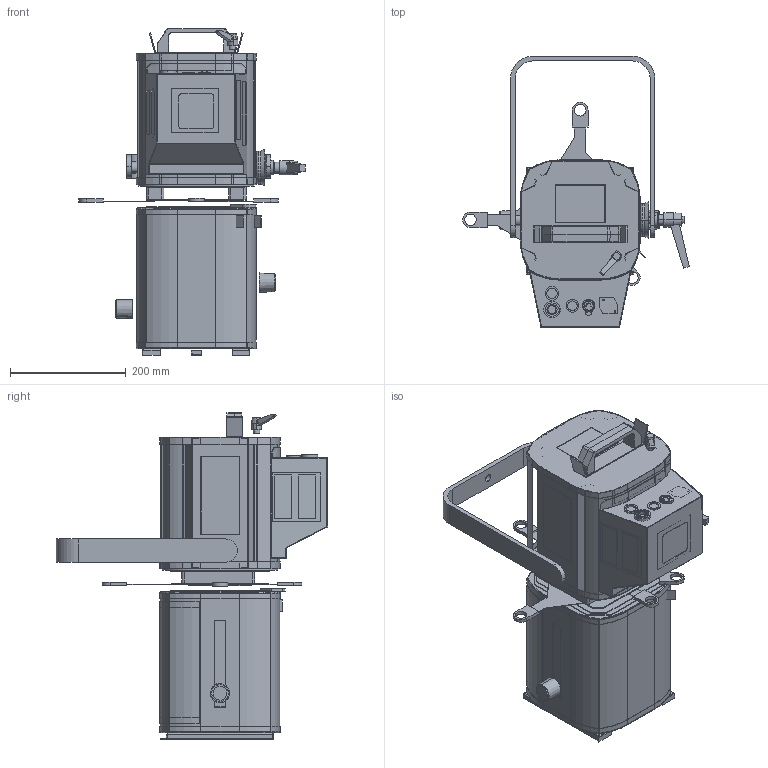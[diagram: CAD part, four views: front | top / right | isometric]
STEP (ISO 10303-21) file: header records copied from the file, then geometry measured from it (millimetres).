
FILE_DESCRIPTION (( 'STEP AP203' ), '1' );
FILE_NAME ('653 4C.STEP', '2023-05-04T13:42:04', ( '' ), ( '' ), 'SwSTEP 2.0', 'SolidWorks 2019', '' );
FILE_SCHEMA (( 'CONFIG_CONTROL_DESIGN' ));
Length unit declared in the file: millimetre
Products named in the file (1): 653 4C
Bounding box: 391.34 x 468.85 x 564.81 mm (x, y, z)
Volume: 1405029.8 mm3; surface area: 1792098.4 mm2
Topology: 60 solids, 60 shells, 1123 faces, 2614 edges, 1640 vertices
Faces by surface type: plane 694, cylinder 358, torus 38, cone 29, bspline 4
Entity records: 31895 total; most frequent: CARTESIAN_POINT 5700, DIRECTION 5600, ORIENTED_EDGE 5228, EDGE_CURVE 2614, AXIS2_PLACEMENT_3D 1920, LINE 1760, VECTOR 1760, VERTEX_POINT 1640
